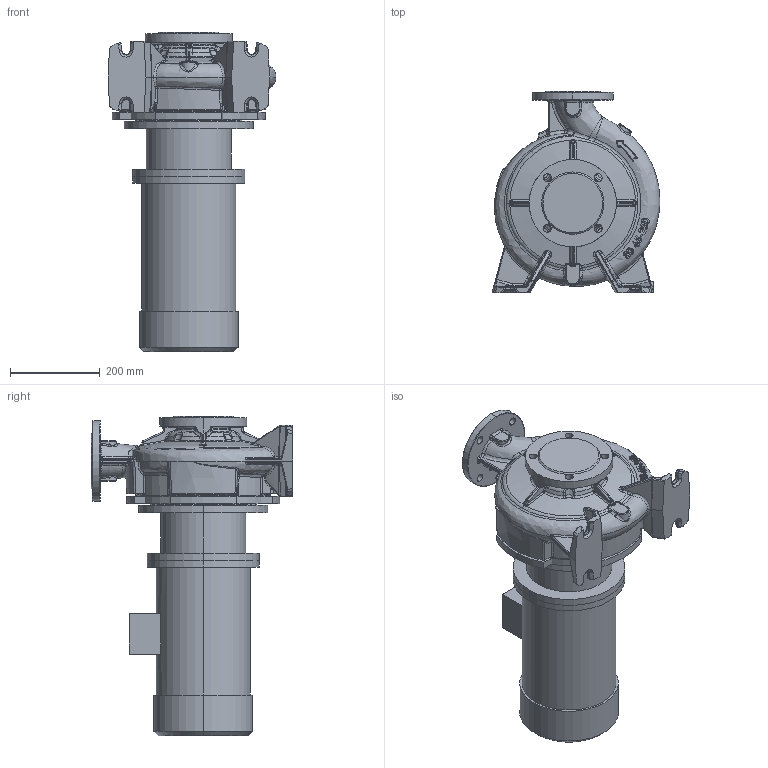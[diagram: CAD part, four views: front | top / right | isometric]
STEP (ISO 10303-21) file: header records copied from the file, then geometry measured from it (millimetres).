
FILE_DESCRIPTION (( 'STEP AP203' ), '1' );
FILE_NAME ('KRM 80-65-250-4-4.STEP', '2026-05-07T05:25:45', ( '' ), ( '' ), 'SwSTEP 2.0', 'SolidWorks 2016', '' );
FILE_SCHEMA (( 'CONFIG_CONTROL_DESIGN' ));
Length unit declared in the file: millimetre
Products named in the file (1): KRM 80-65-250-4-4
Bounding box: 374.33 x 450 x 712.8 mm (x, y, z)
Volume: 35117251.8 mm3; surface area: 1462984.4 mm2
Topology: 8 solids, 8 shells, 1101 faces, 2646 edges, 1571 vertices
Faces by surface type: bspline 507, cylinder 217, plane 198, torus 75, cone 67, sphere 37
Entity records: 92953 total; most frequent: CARTESIAN_POINT 71307, ORIENTED_EDGE 5242, DIRECTION 3513, EDGE_CURVE 2621, VERTEX_POINT 1571, AXIS2_PLACEMENT_3D 1468, EDGE_LOOP 1152, ADVANCED_FACE 1101
